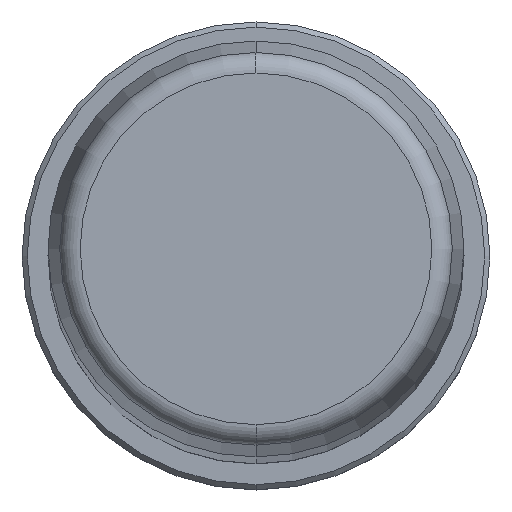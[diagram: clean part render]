
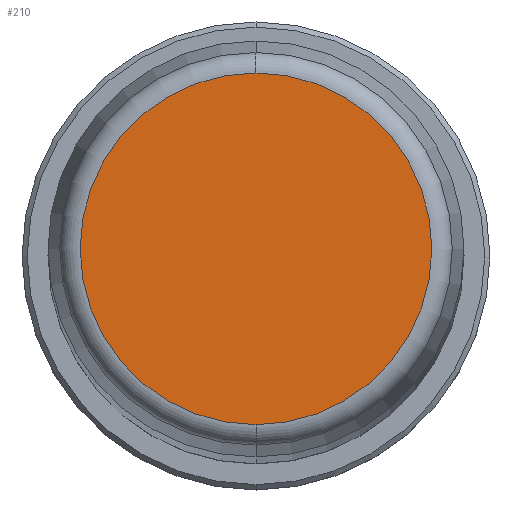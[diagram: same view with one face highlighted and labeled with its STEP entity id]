
A CAD part, top view. The second image highlights one B-rep face of the part: STEP entity #210.
In plain terms, the highlighted planar face has unit normal (0, 0, 1).
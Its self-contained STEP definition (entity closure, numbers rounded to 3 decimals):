
#1=CARTESIAN_POINT('',(0.,0.,400.));
#2=DIRECTION('',(0.,0.,-1.));
#3=DIRECTION('',(0.,-1.,0.));
#4=AXIS2_PLACEMENT_3D('',#1,#2,#3);
#6=CARTESIAN_POINT('',(0.,0.,400.));
#7=DIRECTION('',(0.,0.,-1.));
#8=DIRECTION('',(0.,1.,0.));
#9=AXIS2_PLACEMENT_3D('',#6,#7,#8);
#183=CARTESIAN_POINT('',(0.,-16.911,400.));
#184=CARTESIAN_POINT('',(0.,16.911,400.));
#185=VERTEX_POINT('',#183);
#186=VERTEX_POINT('',#184);
#199=CARTESIAN_POINT('',(0.,0.,400.));
#200=DIRECTION('',(0.,0.,1.));
#201=DIRECTION('',(0.,-1.,0.));
#202=AXIS2_PLACEMENT_3D('',#199,#200,#201);
#203=PLANE('',#202);
#205=ORIENTED_EDGE('',*,*,#204,.T.);
#207=ORIENTED_EDGE('',*,*,#206,.T.);
#208=EDGE_LOOP('',(#205,#207));
#209=FACE_OUTER_BOUND('',#208,.F.);
#210=ADVANCED_FACE('',(#209),#203,.T.);
#5=CIRCLE('',#4,16.911);
#10=CIRCLE('',#9,16.911);
#204=EDGE_CURVE('',#185,#186,#5,.T.);
#206=EDGE_CURVE('',#186,#185,#10,.T.);
